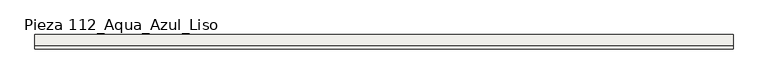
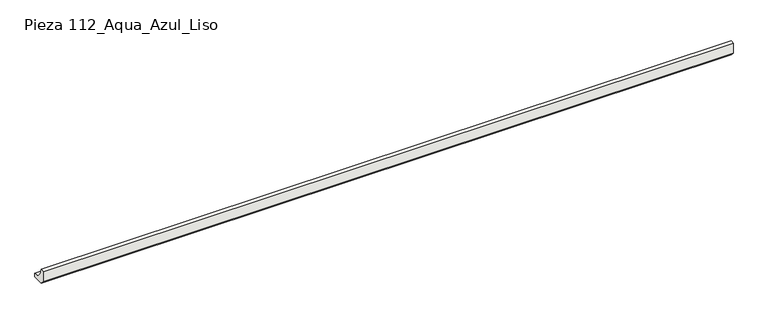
"""IFC4 building model written with IfcOpenShell, lengths in millimetres: slab geometry, ROSA GRES_112 : Pieza 112_Aqua_Azul_Liso."""

from ifc_helpers import new_model, si_unit, point, frame, frame_2d, origin, place, context, project, spatial, polyline, circle_curve, trimmed, segment, composite_curve, outline, extrude, source, transform, mapped, element, save


def pieza_112_aqua_azul_liso_69a263eb(model_context):
    return source(origin(), model_context, "Body", "SweptSolid", [
        extrude(outline(composite_curve([segment(polyline([(0.0, 8.7114978), (0.0, 40.0), (9.9734114, 40.0)]), True, "CONTINUOUS"), segment(trimmed(circle_curve(frame_2d((39.9955547, 39.9955547)), 30.0221435), [point((9.9734114, 40.0))], [point((40.0, 9.9734114))], True, "CARTESIAN"), True, "CONTINUOUS"), segment(polyline([(40.0, 9.9734114), (40.0, 0.0), (8.7114978, 0.0), (0.0, 8.7114978)]), True, "CONTINUOUS")], self_intersect=False)), frame((0.0, 0.0, 0.0), z_axis=(1.0, 0.0, 0.0), x_axis=(0.0, 1.0, 0.0)), (0.0, 0.0, 1.0), 1955.0),
    ])


if __name__ == "__main__":
    model = new_model("IFC4")
    model_context = context("Model", 3, world=origin())
    ifc_project = project(units=[si_unit("LENGTHUNIT", "METRE", prefix="MILLI")], contexts=[model_context])
    site = spatial("IfcSite", under=ifc_project)
    building = spatial("IfcBuilding", under=site)
    placement = place(None, origin())
    pieza_112_aqua_azul_liso_shape = pieza_112_aqua_azul_liso_69a263eb(model_context)
    element("IfcSlab", 1, ObjectType="ROSA GRES_112 : Pieza 112_Aqua_Azul_Liso", at=placement, inside=building, context=model_context, shape_type="MappedRepresentation", body=[
        mapped(pieza_112_aqua_azul_liso_shape, transform((0.0, 0.0, 0.0), x_axis=(1.0, 0.0, 0.0), y_axis=(0.0, 1.0, 0.0), z_axis=(0.0, 0.0, 1.0))),
    ])
    save(model, "model.ifc")
